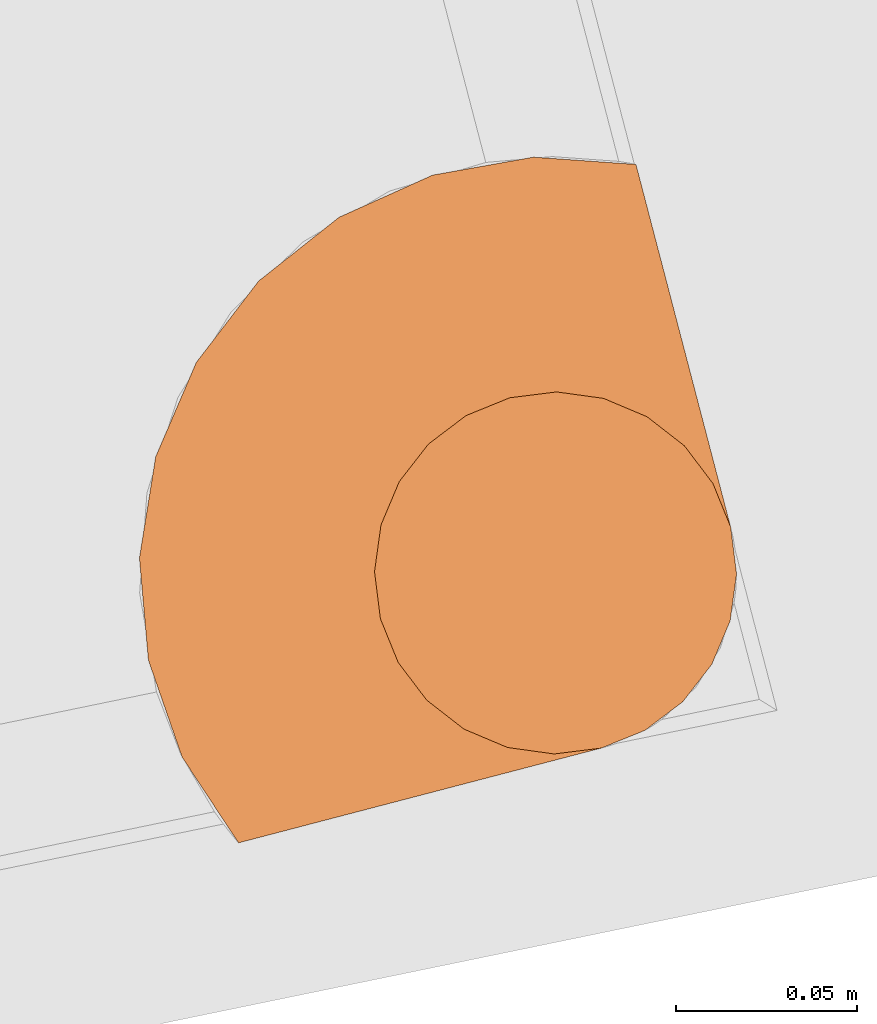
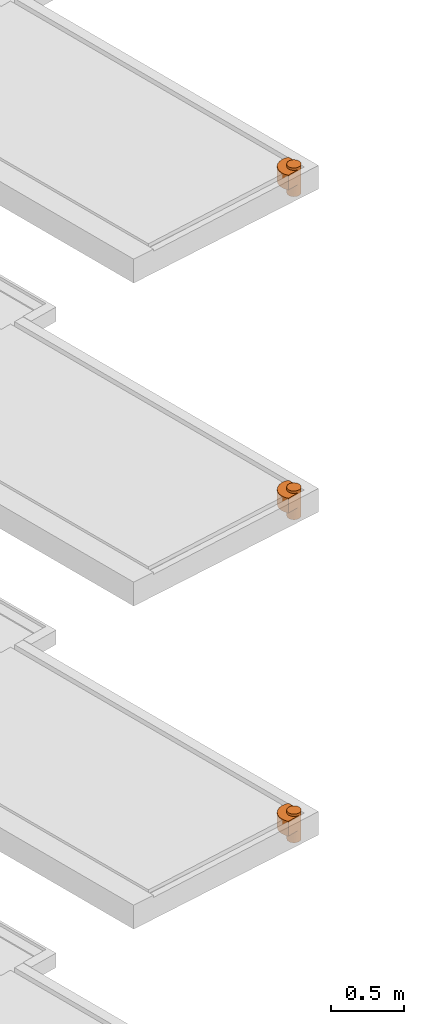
# One storey, part 30 of 31: 3 proxies, 3 elements without a shape of their own.
"""IFC2X3 building model written with IfcOpenShell, lengths in centimetres."""

from ifc_helpers import new_model, entity, si_unit, converted_unit, derived_unit, direction, frame, origin, place, context, subcontext, project, spatial, faceted_brep, source, transform, mapped, material, type_object, type_shapes, element, aggregate, save


model = new_model("IFC2X3")

# Units and contexts
model_context = context("Model", 3, precision=0.001, world=origin(), true_north=direction((6.12303176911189e-17, 1.0)))
body_context = subcontext(model_context, "Body", "Model", "MODEL_VIEW")
ifc_project = project(units=[si_unit("LENGTHUNIT", "METRE", prefix="CENTI"), si_unit("AREAUNIT", "SQUARE_METRE"), si_unit("VOLUMEUNIT", "CUBIC_METRE"), converted_unit("PLANEANGLEUNIT", "DEGREE", entity("IfcRatioMeasure", 0.0174532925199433), si_unit("PLANEANGLEUNIT", "RADIAN"), dimensions=[0, 0, 0, 0, 0, 0, 0]), si_unit("MASSUNIT", "GRAM", prefix="KILO"), derived_unit("MASSDENSITYUNIT", [(si_unit("MASSUNIT", "GRAM", prefix="KILO"), 1), (si_unit("LENGTHUNIT", "METRE"), -3)]), si_unit("TIMEUNIT", "SECOND"), si_unit("FREQUENCYUNIT", "HERTZ"), si_unit("THERMODYNAMICTEMPERATUREUNIT", "DEGREE_CELSIUS"), derived_unit("THERMALTRANSMITTANCEUNIT", [(si_unit("MASSUNIT", "GRAM", prefix="KILO"), 1), (si_unit("THERMODYNAMICTEMPERATUREUNIT", "KELVIN"), -1), (si_unit("TIMEUNIT", "SECOND"), -3)]), derived_unit("VOLUMETRICFLOWRATEUNIT", [(si_unit("LENGTHUNIT", "METRE"), 3), (si_unit("TIMEUNIT", "SECOND"), -1)]), si_unit("ELECTRICCURRENTUNIT", "AMPERE"), si_unit("ELECTRICVOLTAGEUNIT", "VOLT"), si_unit("POWERUNIT", "WATT"), si_unit("FORCEUNIT", "NEWTON"), si_unit("ILLUMINANCEUNIT", "LUX"), si_unit("LUMINOUSFLUXUNIT", "LUMEN"), si_unit("LUMINOUSINTENSITYUNIT", "CANDELA"), derived_unit("USERDEFINED", [(si_unit("MASSUNIT", "GRAM", prefix="KILO"), -1), (si_unit("LENGTHUNIT", "METRE"), -2), (si_unit("TIMEUNIT", "SECOND"), 3), (si_unit("LUMINOUSFLUXUNIT", "LUMEN"), 1)]), derived_unit("LINEARVELOCITYUNIT", [(si_unit("LENGTHUNIT", "METRE"), 1), (si_unit("TIMEUNIT", "SECOND"), -1)]), si_unit("PRESSUREUNIT", "PASCAL"), derived_unit("USERDEFINED", [(si_unit("LENGTHUNIT", "METRE"), -2), (si_unit("MASSUNIT", "GRAM", prefix="KILO"), 1), (si_unit("TIMEUNIT", "SECOND"), -2)])], contexts=[model_context])

# Site, building, storey
site_placement = place(None, origin())
site = spatial("IfcSite", under=ifc_project, at=site_placement, Name="Default", CompositionType="ELEMENT")
building_placement = place(site_placement, origin())
building = spatial("IfcBuilding", under=site, at=building_placement, Name="CAGE 03", CompositionType="ELEMENT")
storey_placement = place(building_placement, frame((0.0, 0.0, -400.0)))
storey = spatial("IfcBuildingStorey", under=building, at=storey_placement, Name="±0.00", CompositionType="ELEMENT", Elevation=-400.0)

# Assembly, proxy
assembly_1_placement = place(storey_placement, origin())
assembly_1 = element("IfcElementAssembly", 1, at=assembly_1_placement, inside=storey, Name="Assemblage Modèles génériques:BALCON TYPE 08", ObjectType="Assemblage Modèles génériques:BALCON TYPE 08", AssemblyPlace="NOTDEFINED", PredefinedType="USERDEFINED")
ifc_material = material(Name="BBGO_Résa")
building_element_proxy_type_1 = type_object("IfcBuildingElementProxyType", Name="Siphon de balcon", PredefinedType="NOTDEFINED", material=ifc_material)
shared_shape_1 = source(origin(), body_context, "Body", "Brep", [
    faceted_brep([(10.3541591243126, 16.4778834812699, 9.69999999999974), (10.3541591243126, 16.4778834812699, 0.0), (9.14825434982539, 15.9783813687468, 0.0), (9.14825434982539, 15.9783813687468, 9.69999999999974), (10.3541591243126, 16.4778834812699, 22.0), (9.14825434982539, 15.9783813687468, 22.0), (9.14825434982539, 15.9783813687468, 24.0), (10.3541591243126, 16.4778834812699, 24.0), (8.11272044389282, 15.1837882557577, 0.0), (8.11272044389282, 15.1837882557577, 9.69999999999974), (8.11272044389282, 15.1837882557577, 22.0), (8.11272044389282, 15.1837882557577, 24.0), (7.31812733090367, 14.1482543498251, 9.69999999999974), (7.31812733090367, 14.1482543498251, 0.0), (6.81862521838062, 12.9423495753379, 0.0), (6.81862521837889, 12.942349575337, 9.69999999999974), (7.31812733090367, 14.1482543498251, 22.0), (6.81862521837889, 12.942349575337, 22.0), (6.81862521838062, 12.9423495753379, 24.0), (7.31812733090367, 14.1482543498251, 24.0), (6.64825434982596, 11.6482543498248, 0.0), (6.64825434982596, 11.6482543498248, 9.69999999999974), (6.64825434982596, 11.6482543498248, 24.0), (6.64825434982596, 11.6482543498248, 22.0), (11.6482543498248, 16.6482543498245, 9.69999999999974), (11.6482543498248, 16.6482543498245, 0.0), (11.6482543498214, 16.6482543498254, 22.0), (11.6482543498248, 16.6482543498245, 24.0), (6.81862521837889, 10.3541591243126, 9.69999999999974), (6.81862521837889, 10.3541591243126, 0.0), (7.31812733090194, 9.14825434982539, 0.0), (7.31812733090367, 9.14825434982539, 9.69999999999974), (6.81862521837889, 10.3541591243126, 22.0), (7.31812733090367, 9.14825434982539, 22.0), (7.31812733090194, 9.14825434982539, 24.0), (6.81862521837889, 10.3541591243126, 24.0), (8.11272044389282, 8.11272044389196, 0.0), (8.11272044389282, 8.11272044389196, 9.69999999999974), (8.11272044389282, 8.11272044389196, 22.0), (8.11272044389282, 8.11272044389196, 24.0), (9.14825434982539, 7.31812733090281, 9.69999999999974), (9.14825434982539, 7.31812733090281, 0.0), (10.3541591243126, 6.81862521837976, 0.0), (10.3541591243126, 6.81862521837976, 9.69999999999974), (9.14825434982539, 7.31812733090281, 22.0), (10.3541591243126, 6.81862521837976, 22.0), (10.3541591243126, 6.81862521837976, 24.0), (9.14825434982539, 7.31812733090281, 24.0), (11.6482543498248, 6.64825434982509, 0.0), (11.6482543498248, 6.64825434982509, 9.69999999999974), (11.6482543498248, 6.64825434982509, 22.0), (11.6482543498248, 6.64825434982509, 24.0), (16.4778834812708, 10.3541591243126, 22.0), (15.978381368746, 9.14825434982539, 22.0), (15.1837882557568, 8.11272044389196, 22.0), (14.1482543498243, 7.31812733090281, 22.0), (12.942349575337, 6.81862521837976, 22.0), (1.29209676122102, 16.6482543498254, 22.0), (0.383832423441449, 13.964026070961, 22.0), (0.15952722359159, 11.1391875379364, 22.0), (0.632800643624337, 8.34525879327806, 22.0), (1.77491621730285, 5.75188308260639, 22.0), (3.51652636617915, 3.51652636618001, 22.0), (5.75188308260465, 1.77491621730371, 22.0), (8.34525879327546, 0.632800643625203, 22.0), (11.1391875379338, 0.159527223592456, 22.0), (13.9640260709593, 0.383832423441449, 22.0), (16.6482543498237, 1.29209676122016, 22.0), (16.6482543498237, 11.6482543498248, 22.0), (12.942349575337, 6.81862521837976, 9.69999999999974), (14.1482543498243, 7.31812733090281, 9.69999999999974), (15.1837882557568, 8.11272044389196, 9.69999999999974), (15.978381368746, 9.14825434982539, 9.69999999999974), (16.4778834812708, 10.3541591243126, 9.69999999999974), (16.6482543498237, 11.6482543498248, 9.69999999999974), (16.6482543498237, 1.29209676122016, 9.69999999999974), (13.9640260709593, 0.383832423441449, 9.69999999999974), (11.1391875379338, 0.159527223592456, 9.69999999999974), (8.34525879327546, 0.632800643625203, 9.69999999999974), (5.75188308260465, 1.77491621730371, 9.69999999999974), (3.51652636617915, 3.51652636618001, 9.69999999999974), (1.77491621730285, 5.75188308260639, 9.69999999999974), (0.632800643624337, 8.34525879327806, 9.69999999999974), (0.15952722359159, 11.1391875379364, 9.69999999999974), (0.383832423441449, 13.964026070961, 9.69999999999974), (1.29209676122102, 16.6482543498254, 9.69999999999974), (1.29209676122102, 16.6482543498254, 21.5299497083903), (16.6482543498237, 1.29209676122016, 21.3763717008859), (12.942349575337, 6.81862521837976, 24.0), (14.1482543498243, 7.31812733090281, 24.0), (15.1837882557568, 8.11272044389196, 24.0), (15.978381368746, 9.14825434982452, 24.0), (16.477883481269, 10.3541591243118, 24.0), (16.6482543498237, 11.6482543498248, 24.0), (16.4778834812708, 12.942349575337, 24.0), (15.9783813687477, 14.1482543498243, 24.0), (15.1837882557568, 15.1837882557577, 24.0), (14.1482543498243, 15.9783813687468, 24.0), (12.942349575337, 16.4778834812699, 24.0), (14.1482543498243, 7.31812733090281, 0.0), (12.942349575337, 6.81862521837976, 0.0), (12.942349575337, 16.4778834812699, 0.0), (14.1482543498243, 15.9783813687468, 0.0), (15.1837882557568, 15.1837882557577, 0.0), (15.9783813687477, 14.1482543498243, 0.0), (16.4778834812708, 12.942349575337, 0.0), (16.6482543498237, 11.6482543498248, 0.0), (16.477883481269, 10.3541591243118, 0.0), (15.978381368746, 9.14825434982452, 0.0), (15.1837882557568, 8.11272044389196, 0.0)], [[[0, 1, 2, 3]], [[4, 5, 6, 7]], [[8, 9, 3, 2]], [[5, 10, 11, 6]], [[12, 13, 14, 15]], [[16, 17, 18, 19]], [[8, 13, 12, 9]], [[10, 16, 19, 11]], [[15, 14, 20, 21]], [[22, 18, 17, 23]], [[1, 0, 24, 25]], [[26, 4, 7, 27]], [[28, 29, 30, 31]], [[32, 33, 34, 35]], [[36, 37, 31, 30]], [[33, 38, 39, 34]], [[40, 41, 42, 43]], [[44, 45, 46, 47]], [[36, 41, 40, 37]], [[38, 44, 47, 39]], [[43, 42, 48, 49]], [[45, 50, 51, 46]], [[29, 28, 21, 20]], [[32, 35, 22, 23]], [[52, 53, 54, 55, 56, 50, 45, 44, 38, 33, 32, 23, 17, 16, 10, 5, 4, 26, 57, 58, 59, 60, 61, 62, 63, 64, 65, 66, 67, 68]], [[21, 28, 31, 37, 40, 43, 49, 69, 70, 71, 72, 73, 74, 75, 76, 77, 78, 79, 80, 81, 82, 83, 84, 85, 24, 0, 3, 9, 12, 15]], [[57, 26, 24, 85, 86]], [[86, 85, 84, 58, 57]], [[83, 59, 58, 84]], [[60, 82, 81, 61]], [[83, 82, 60, 59]], [[61, 81, 80, 62]], [[78, 64, 63, 79]], [[77, 65, 64, 78]], [[76, 75, 87, 67, 66]], [[77, 76, 66, 65]], [[79, 63, 62, 80]], [[68, 67, 87, 75, 74]], [[22, 35, 34, 39, 47, 46, 51, 88, 89, 90, 91, 92, 93, 94, 95, 96, 97, 98, 27, 7, 6, 11, 19, 18]], [[99, 100, 48, 42, 41, 36, 30, 29, 20, 14, 13, 8, 2, 1, 25, 101, 102, 103, 104, 105, 106, 107, 108, 109]], [[48, 100, 69, 49]], [[51, 50, 56, 88]], [[99, 70, 69, 100]], [[56, 55, 89, 88]], [[109, 108, 72, 71]], [[54, 53, 91, 90]], [[109, 71, 70, 99]], [[54, 90, 89, 55]], [[108, 107, 73, 72]], [[91, 53, 52, 92]], [[74, 106, 105, 94, 93, 68]], [[107, 106, 74, 73]], [[52, 68, 93, 92]], [[94, 105, 104, 95]], [[101, 25, 24, 26, 27, 98]], [[96, 103, 102, 97]], [[101, 98, 97, 102]], [[95, 104, 103, 96]]]),
])
type_shapes(building_element_proxy_type_1, [shared_shape_1])
proxy_1_placement = place(assembly_1_placement, frame((10771.9314802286, 3315.28180629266, 1798.0), z_axis=(0.0, 0.0, 1.0), x_axis=(0.252679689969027, -0.967549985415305, 0.0)))
proxy_1 = element("IfcBuildingElementProxy", 2, at=proxy_1_placement, type_object=building_element_proxy_type_1, material=ifc_material, Name="Siphon de balcon27:Siphon de balcon", ObjectType="Siphon de balcon", context=body_context, shape_type="MappedRepresentation", body=[
    mapped(shared_shape_1, transform((0.0, 0.0, 0.0), scale=1.0)),
])
aggregate(assembly_1, [proxy_1])

assembly_2_placement = place(storey_placement, origin())
assembly_2 = element("IfcElementAssembly", 3, at=assembly_2_placement, inside=storey, Name="Assemblage Modèles génériques:BALCON TYPE 08", ObjectType="Assemblage Modèles génériques:BALCON TYPE 08", AssemblyPlace="NOTDEFINED", PredefinedType="USERDEFINED")
building_element_proxy_type_2 = type_object("IfcBuildingElementProxyType", Name="Siphon de balcon", PredefinedType="NOTDEFINED", material=ifc_material)
shared_shape_2 = source(origin(), body_context, "Body", "Brep", [
    faceted_brep([(10.3541591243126, 16.4778834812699, 9.69999999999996), (10.3541591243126, 16.4778834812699, 0.0), (9.14825434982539, 15.9783813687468, 0.0), (9.14825434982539, 15.9783813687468, 9.69999999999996), (10.3541591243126, 16.4778834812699, 22.0), (9.14825434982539, 15.9783813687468, 22.0), (9.14825434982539, 15.9783813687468, 24.0), (10.3541591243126, 16.4778834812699, 24.0), (8.11272044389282, 15.1837882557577, 0.0), (8.11272044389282, 15.1837882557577, 9.69999999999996), (8.11272044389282, 15.1837882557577, 22.0), (8.11272044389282, 15.1837882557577, 24.0), (7.31812733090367, 14.1482543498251, 9.69999999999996), (7.31812733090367, 14.1482543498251, 0.0), (6.81862521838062, 12.9423495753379, 0.0), (6.81862521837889, 12.942349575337, 9.69999999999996), (7.31812733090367, 14.1482543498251, 22.0), (6.81862521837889, 12.942349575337, 22.0), (6.81862521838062, 12.9423495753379, 24.0), (7.31812733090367, 14.1482543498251, 24.0), (6.64825434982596, 11.6482543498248, 0.0), (6.64825434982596, 11.6482543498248, 9.69999999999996), (6.64825434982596, 11.6482543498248, 24.0), (6.64825434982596, 11.6482543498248, 22.0), (11.6482543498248, 16.6482543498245, 9.69999999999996), (11.6482543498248, 16.6482543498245, 0.0), (11.6482543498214, 16.6482543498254, 22.0), (11.6482543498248, 16.6482543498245, 24.0), (6.81862521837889, 10.3541591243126, 9.69999999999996), (6.81862521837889, 10.3541591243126, 0.0), (7.31812733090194, 9.14825434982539, 0.0), (7.31812733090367, 9.14825434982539, 9.69999999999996), (6.81862521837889, 10.3541591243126, 22.0), (7.31812733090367, 9.14825434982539, 22.0), (7.31812733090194, 9.14825434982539, 24.0), (6.81862521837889, 10.3541591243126, 24.0), (8.11272044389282, 8.11272044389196, 0.0), (8.11272044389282, 8.11272044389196, 9.69999999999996), (8.11272044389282, 8.11272044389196, 22.0), (8.11272044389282, 8.11272044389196, 24.0), (9.14825434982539, 7.31812733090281, 9.69999999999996), (9.14825434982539, 7.31812733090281, 0.0), (10.3541591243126, 6.81862521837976, 0.0), (10.3541591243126, 6.81862521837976, 9.69999999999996), (9.14825434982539, 7.31812733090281, 22.0), (10.3541591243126, 6.81862521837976, 22.0), (10.3541591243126, 6.81862521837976, 24.0), (9.14825434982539, 7.31812733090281, 24.0), (11.6482543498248, 6.64825434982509, 0.0), (11.6482543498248, 6.64825434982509, 9.69999999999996), (11.6482543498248, 6.64825434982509, 22.0), (11.6482543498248, 6.64825434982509, 24.0), (16.4778834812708, 10.3541591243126, 22.0), (15.978381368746, 9.14825434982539, 22.0), (15.1837882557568, 8.11272044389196, 22.0), (14.1482543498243, 7.31812733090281, 22.0), (12.942349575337, 6.81862521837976, 22.0), (1.29209676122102, 16.6482543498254, 22.0), (0.383832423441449, 13.964026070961, 22.0), (0.15952722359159, 11.1391875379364, 22.0), (0.632800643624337, 8.34525879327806, 22.0), (1.77491621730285, 5.75188308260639, 22.0), (3.51652636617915, 3.51652636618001, 22.0), (5.75188308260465, 1.77491621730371, 22.0), (8.34525879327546, 0.632800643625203, 22.0), (11.1391875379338, 0.159527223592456, 22.0), (13.9640260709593, 0.383832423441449, 22.0), (16.6482543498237, 1.29209676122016, 22.0), (16.6482543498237, 11.6482543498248, 22.0), (12.942349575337, 6.81862521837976, 9.69999999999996), (14.1482543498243, 7.31812733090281, 9.69999999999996), (15.1837882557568, 8.11272044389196, 9.69999999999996), (15.978381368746, 9.14825434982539, 9.69999999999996), (16.4778834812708, 10.3541591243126, 9.69999999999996), (16.6482543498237, 11.6482543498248, 9.69999999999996), (16.6482543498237, 1.29209676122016, 9.69999999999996), (13.9640260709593, 0.383832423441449, 9.69999999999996), (11.1391875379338, 0.159527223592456, 9.69999999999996), (8.34525879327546, 0.632800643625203, 9.69999999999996), (5.75188308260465, 1.77491621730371, 9.69999999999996), (3.51652636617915, 3.51652636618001, 9.69999999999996), (1.77491621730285, 5.75188308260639, 9.69999999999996), (0.632800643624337, 8.34525879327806, 9.69999999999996), (0.15952722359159, 11.1391875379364, 9.69999999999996), (0.383832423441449, 13.964026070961, 9.69999999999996), (1.29209676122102, 16.6482543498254, 9.69999999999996), (1.29209676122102, 16.6482543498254, 21.5299497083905), (16.6482543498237, 1.29209676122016, 21.3763717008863), (12.942349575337, 6.81862521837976, 24.0), (14.1482543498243, 7.31812733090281, 24.0), (15.1837882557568, 8.11272044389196, 24.0), (15.978381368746, 9.14825434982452, 24.0), (16.477883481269, 10.3541591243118, 24.0), (16.6482543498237, 11.6482543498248, 24.0), (16.4778834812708, 12.942349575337, 24.0), (15.9783813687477, 14.1482543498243, 24.0), (15.1837882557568, 15.1837882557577, 24.0), (14.1482543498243, 15.9783813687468, 24.0), (12.942349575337, 16.4778834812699, 24.0), (14.1482543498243, 7.31812733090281, 0.0), (12.942349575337, 6.81862521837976, 0.0), (12.942349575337, 16.4778834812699, 0.0), (14.1482543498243, 15.9783813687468, 0.0), (15.1837882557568, 15.1837882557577, 0.0), (15.9783813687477, 14.1482543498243, 0.0), (16.4778834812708, 12.942349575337, 0.0), (16.6482543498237, 11.6482543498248, 0.0), (16.477883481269, 10.3541591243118, 0.0), (15.978381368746, 9.14825434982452, 0.0), (15.1837882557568, 8.11272044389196, 0.0)], [[[0, 1, 2, 3]], [[4, 5, 6, 7]], [[8, 9, 3, 2]], [[5, 10, 11, 6]], [[12, 13, 14, 15]], [[16, 17, 18, 19]], [[8, 13, 12, 9]], [[10, 16, 19, 11]], [[15, 14, 20, 21]], [[22, 18, 17, 23]], [[1, 0, 24, 25]], [[26, 4, 7, 27]], [[28, 29, 30, 31]], [[32, 33, 34, 35]], [[36, 37, 31, 30]], [[33, 38, 39, 34]], [[40, 41, 42, 43]], [[44, 45, 46, 47]], [[36, 41, 40, 37]], [[38, 44, 47, 39]], [[43, 42, 48, 49]], [[45, 50, 51, 46]], [[29, 28, 21, 20]], [[32, 35, 22, 23]], [[52, 53, 54, 55, 56, 50, 45, 44, 38, 33, 32, 23, 17, 16, 10, 5, 4, 26, 57, 58, 59, 60, 61, 62, 63, 64, 65, 66, 67, 68]], [[21, 28, 31, 37, 40, 43, 49, 69, 70, 71, 72, 73, 74, 75, 76, 77, 78, 79, 80, 81, 82, 83, 84, 85, 24, 0, 3, 9, 12, 15]], [[57, 26, 24, 85, 86]], [[86, 85, 84, 58, 57]], [[83, 59, 58, 84]], [[60, 82, 81, 61]], [[83, 82, 60, 59]], [[61, 81, 80, 62]], [[78, 64, 63, 79]], [[77, 65, 64, 78]], [[76, 75, 87, 67, 66]], [[77, 76, 66, 65]], [[79, 63, 62, 80]], [[68, 67, 87, 75, 74]], [[22, 35, 34, 39, 47, 46, 51, 88, 89, 90, 91, 92, 93, 94, 95, 96, 97, 98, 27, 7, 6, 11, 19, 18]], [[99, 100, 48, 42, 41, 36, 30, 29, 20, 14, 13, 8, 2, 1, 25, 101, 102, 103, 104, 105, 106, 107, 108, 109]], [[48, 100, 69, 49]], [[51, 50, 56, 88]], [[99, 70, 69, 100]], [[56, 55, 89, 88]], [[109, 108, 72, 71]], [[54, 53, 91, 90]], [[109, 71, 70, 99]], [[54, 90, 89, 55]], [[108, 107, 73, 72]], [[91, 53, 52, 92]], [[74, 106, 105, 94, 93, 68]], [[107, 106, 74, 73]], [[52, 68, 93, 92]], [[94, 105, 104, 95]], [[101, 25, 24, 26, 27, 98]], [[96, 103, 102, 97]], [[101, 98, 97, 102]], [[95, 104, 103, 96]]]),
])
type_shapes(building_element_proxy_type_2, [shared_shape_2])
proxy_2_placement = place(assembly_2_placement, frame((10771.9314802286, 3315.28180629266, 1528.0), z_axis=(0.0, 0.0, 1.0), x_axis=(0.252679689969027, -0.967549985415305, 0.0)))
proxy_2 = element("IfcBuildingElementProxy", 4, at=proxy_2_placement, type_object=building_element_proxy_type_2, material=ifc_material, Name="Siphon de balcon26:Siphon de balcon", ObjectType="Siphon de balcon", context=body_context, shape_type="MappedRepresentation", body=[
    mapped(shared_shape_2, transform((0.0, 0.0, 0.0), scale=1.0)),
])
aggregate(assembly_2, [proxy_2])

assembly_3_placement = place(storey_placement, origin())
assembly_3 = element("IfcElementAssembly", 5, at=assembly_3_placement, inside=storey, Name="Assemblage Modèles génériques:BALCON TYPE 08", ObjectType="Assemblage Modèles génériques:BALCON TYPE 08", AssemblyPlace="NOTDEFINED", PredefinedType="USERDEFINED")
building_element_proxy_type_3 = type_object("IfcBuildingElementProxyType", Name="Siphon de balcon", PredefinedType="NOTDEFINED", material=ifc_material)
shared_shape_3 = source(origin(), body_context, "Body", "Brep", [
    faceted_brep([(10.3541591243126, 16.4778834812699, 9.69999999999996), (10.3541591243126, 16.4778834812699, 0.0), (9.14825434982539, 15.9783813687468, 0.0), (9.14825434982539, 15.9783813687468, 9.69999999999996), (10.3541591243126, 16.4778834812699, 22.0), (9.14825434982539, 15.9783813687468, 22.0), (9.14825434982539, 15.9783813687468, 24.0), (10.3541591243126, 16.4778834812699, 24.0), (8.11272044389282, 15.1837882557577, 0.0), (8.11272044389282, 15.1837882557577, 9.69999999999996), (8.11272044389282, 15.1837882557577, 22.0), (8.11272044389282, 15.1837882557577, 24.0), (7.31812733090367, 14.1482543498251, 9.69999999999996), (7.31812733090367, 14.1482543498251, 0.0), (6.81862521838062, 12.9423495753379, 0.0), (6.81862521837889, 12.942349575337, 9.69999999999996), (7.31812733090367, 14.1482543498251, 22.0), (6.81862521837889, 12.942349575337, 22.0), (6.81862521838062, 12.9423495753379, 24.0), (7.31812733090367, 14.1482543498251, 24.0), (6.64825434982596, 11.6482543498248, 0.0), (6.64825434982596, 11.6482543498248, 9.69999999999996), (6.64825434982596, 11.6482543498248, 24.0), (6.64825434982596, 11.6482543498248, 22.0), (11.6482543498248, 16.6482543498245, 9.69999999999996), (11.6482543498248, 16.6482543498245, 0.0), (11.6482543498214, 16.6482543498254, 22.0), (11.6482543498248, 16.6482543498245, 24.0), (6.81862521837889, 10.3541591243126, 9.69999999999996), (6.81862521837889, 10.3541591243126, 0.0), (7.31812733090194, 9.14825434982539, 0.0), (7.31812733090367, 9.14825434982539, 9.69999999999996), (6.81862521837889, 10.3541591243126, 22.0), (7.31812733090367, 9.14825434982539, 22.0), (7.31812733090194, 9.14825434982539, 24.0), (6.81862521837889, 10.3541591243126, 24.0), (8.11272044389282, 8.11272044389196, 0.0), (8.11272044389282, 8.11272044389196, 9.69999999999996), (8.11272044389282, 8.11272044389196, 22.0), (8.11272044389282, 8.11272044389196, 24.0), (9.14825434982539, 7.31812733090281, 9.69999999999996), (9.14825434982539, 7.31812733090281, 0.0), (10.3541591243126, 6.81862521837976, 0.0), (10.3541591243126, 6.81862521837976, 9.69999999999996), (9.14825434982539, 7.31812733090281, 22.0), (10.3541591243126, 6.81862521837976, 22.0), (10.3541591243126, 6.81862521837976, 24.0), (9.14825434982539, 7.31812733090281, 24.0), (11.6482543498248, 6.64825434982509, 0.0), (11.6482543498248, 6.64825434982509, 9.69999999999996), (11.6482543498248, 6.64825434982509, 22.0), (11.6482543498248, 6.64825434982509, 24.0), (16.4778834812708, 10.3541591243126, 22.0), (15.978381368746, 9.14825434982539, 22.0), (15.1837882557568, 8.11272044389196, 22.0), (14.1482543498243, 7.31812733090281, 22.0), (12.942349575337, 6.81862521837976, 22.0), (1.29209676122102, 16.6482543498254, 22.0), (0.383832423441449, 13.964026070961, 22.0), (0.15952722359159, 11.1391875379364, 22.0), (0.632800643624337, 8.34525879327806, 22.0), (1.77491621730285, 5.75188308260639, 22.0), (3.51652636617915, 3.51652636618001, 22.0), (5.75188308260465, 1.77491621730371, 22.0), (8.34525879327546, 0.632800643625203, 22.0), (11.1391875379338, 0.159527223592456, 22.0), (13.9640260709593, 0.383832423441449, 22.0), (16.6482543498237, 1.29209676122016, 22.0), (16.6482543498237, 11.6482543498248, 22.0), (12.942349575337, 6.81862521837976, 9.69999999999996), (14.1482543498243, 7.31812733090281, 9.69999999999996), (15.1837882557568, 8.11272044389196, 9.69999999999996), (15.978381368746, 9.14825434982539, 9.69999999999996), (16.4778834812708, 10.3541591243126, 9.69999999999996), (16.6482543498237, 11.6482543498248, 9.69999999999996), (16.6482543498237, 1.29209676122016, 9.69999999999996), (13.9640260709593, 0.383832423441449, 9.69999999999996), (11.1391875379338, 0.159527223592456, 9.69999999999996), (8.34525879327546, 0.632800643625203, 9.69999999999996), (5.75188308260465, 1.77491621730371, 9.69999999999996), (3.51652636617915, 3.51652636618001, 9.69999999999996), (1.77491621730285, 5.75188308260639, 9.69999999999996), (0.632800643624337, 8.34525879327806, 9.69999999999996), (0.15952722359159, 11.1391875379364, 9.69999999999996), (0.383832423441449, 13.964026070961, 9.69999999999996), (1.29209676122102, 16.6482543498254, 9.69999999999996), (1.29209676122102, 16.6482543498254, 21.5299497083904), (16.6482543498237, 1.29209676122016, 21.3763717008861), (12.942349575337, 6.81862521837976, 24.0), (14.1482543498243, 7.31812733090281, 24.0), (15.1837882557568, 8.11272044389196, 24.0), (15.978381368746, 9.14825434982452, 24.0), (16.477883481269, 10.3541591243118, 24.0), (16.6482543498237, 11.6482543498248, 24.0), (16.4778834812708, 12.942349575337, 24.0), (15.9783813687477, 14.1482543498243, 24.0), (15.1837882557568, 15.1837882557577, 24.0), (14.1482543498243, 15.9783813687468, 24.0), (12.942349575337, 16.4778834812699, 24.0), (14.1482543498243, 7.31812733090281, 0.0), (12.942349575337, 6.81862521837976, 0.0), (12.942349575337, 16.4778834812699, 0.0), (14.1482543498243, 15.9783813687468, 0.0), (15.1837882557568, 15.1837882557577, 0.0), (15.9783813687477, 14.1482543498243, 0.0), (16.4778834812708, 12.942349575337, 0.0), (16.6482543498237, 11.6482543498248, 0.0), (16.477883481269, 10.3541591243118, 0.0), (15.978381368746, 9.14825434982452, 0.0), (15.1837882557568, 8.11272044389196, 0.0)], [[[0, 1, 2, 3]], [[4, 5, 6, 7]], [[8, 9, 3, 2]], [[5, 10, 11, 6]], [[12, 13, 14, 15]], [[16, 17, 18, 19]], [[8, 13, 12, 9]], [[10, 16, 19, 11]], [[15, 14, 20, 21]], [[22, 18, 17, 23]], [[1, 0, 24, 25]], [[26, 4, 7, 27]], [[28, 29, 30, 31]], [[32, 33, 34, 35]], [[36, 37, 31, 30]], [[33, 38, 39, 34]], [[40, 41, 42, 43]], [[44, 45, 46, 47]], [[36, 41, 40, 37]], [[38, 44, 47, 39]], [[43, 42, 48, 49]], [[45, 50, 51, 46]], [[29, 28, 21, 20]], [[32, 35, 22, 23]], [[52, 53, 54, 55, 56, 50, 45, 44, 38, 33, 32, 23, 17, 16, 10, 5, 4, 26, 57, 58, 59, 60, 61, 62, 63, 64, 65, 66, 67, 68]], [[21, 28, 31, 37, 40, 43, 49, 69, 70, 71, 72, 73, 74, 75, 76, 77, 78, 79, 80, 81, 82, 83, 84, 85, 24, 0, 3, 9, 12, 15]], [[57, 26, 24, 85, 86]], [[86, 85, 84, 58, 57]], [[83, 59, 58, 84]], [[60, 82, 81, 61]], [[83, 82, 60, 59]], [[61, 81, 80, 62]], [[78, 64, 63, 79]], [[77, 65, 64, 78]], [[76, 75, 87, 67, 66]], [[77, 76, 66, 65]], [[79, 63, 62, 80]], [[68, 67, 87, 75, 74]], [[22, 35, 34, 39, 47, 46, 51, 88, 89, 90, 91, 92, 93, 94, 95, 96, 97, 98, 27, 7, 6, 11, 19, 18]], [[99, 100, 48, 42, 41, 36, 30, 29, 20, 14, 13, 8, 2, 1, 25, 101, 102, 103, 104, 105, 106, 107, 108, 109]], [[48, 100, 69, 49]], [[51, 50, 56, 88]], [[99, 70, 69, 100]], [[56, 55, 89, 88]], [[109, 108, 72, 71]], [[54, 53, 91, 90]], [[109, 71, 70, 99]], [[54, 90, 89, 55]], [[108, 107, 73, 72]], [[91, 53, 52, 92]], [[74, 106, 105, 94, 93, 68]], [[107, 106, 74, 73]], [[52, 68, 93, 92]], [[94, 105, 104, 95]], [[101, 25, 24, 26, 27, 98]], [[96, 103, 102, 97]], [[101, 98, 97, 102]], [[95, 104, 103, 96]]]),
])
type_shapes(building_element_proxy_type_3, [shared_shape_3])
proxy_3_placement = place(assembly_3_placement, frame((10771.9314802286, 3315.28180629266, 1258.0), z_axis=(0.0, 0.0, 1.0), x_axis=(0.252679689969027, -0.967549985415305, 0.0)))
proxy_3 = element("IfcBuildingElementProxy", 6, at=proxy_3_placement, type_object=building_element_proxy_type_3, material=ifc_material, Name="Siphon de balcon25:Siphon de balcon", ObjectType="Siphon de balcon", context=body_context, shape_type="MappedRepresentation", body=[
    mapped(shared_shape_3, transform((0.0, 0.0, 0.0), scale=1.0)),
])
aggregate(assembly_3, [proxy_3])

save(model, "model.ifc")
